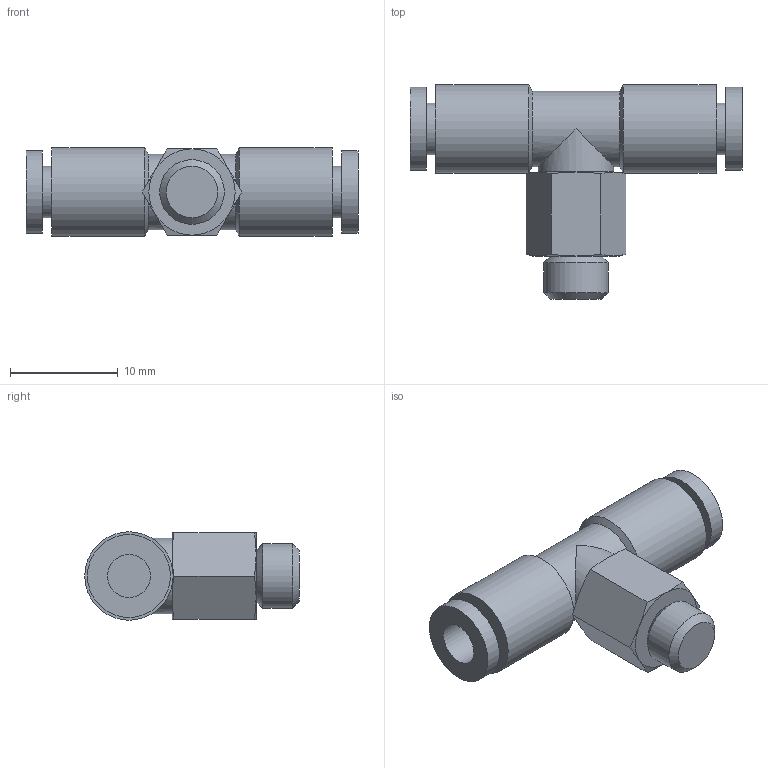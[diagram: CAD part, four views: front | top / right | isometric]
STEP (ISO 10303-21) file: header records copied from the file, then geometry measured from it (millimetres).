
FILE_DESCRIPTION(/* description */ ('STEP AP214'),/* implementation_level */ '2;1');
FILE_NAME(/* name */ 'KQ2T04-M6A',/* time_stamp */ '2024-10-24T13:59:53+02:00',/* author */ ('License CC BY-ND 4.0'),/* organization */ ('CADENAS'),/* preprocessor_version */ 'ST-DEVELOPER v19.3',/* originating_system */ 'PARTsolutions',/* authorisation */ ' ');
FILE_SCHEMA (('AUTOMOTIVE_DESIGN {1 0 10303 214 3 1 1}'));
Length unit declared in the file: millimetre
Products named in the file (1): KQ2T04-M6A
Bounding box: 30.8 x 19.9 x 8.2 mm (x, y, z)
Volume: 1667.7 mm3; surface area: 1665.3 mm2
Topology: 1 solids, 1 shells, 44 faces, 84 edges, 50 vertices
Faces by surface type: plane 17, cone 16, cylinder 11
Full cylindrical faces by diameter (mm): 4 x2, 4.8 x2, 6 x1, 7 x2, 7.7 x2, 8.2 x2
Entity records: 1066 total; most frequent: CARTESIAN_POINT 233, DIRECTION 170, ORIENTED_EDGE 134, AXIS2_PLACEMENT_3D 82, EDGE_LOOP 68, FACE_BOUND 68, EDGE_CURVE 67, VERTEX_POINT 49
